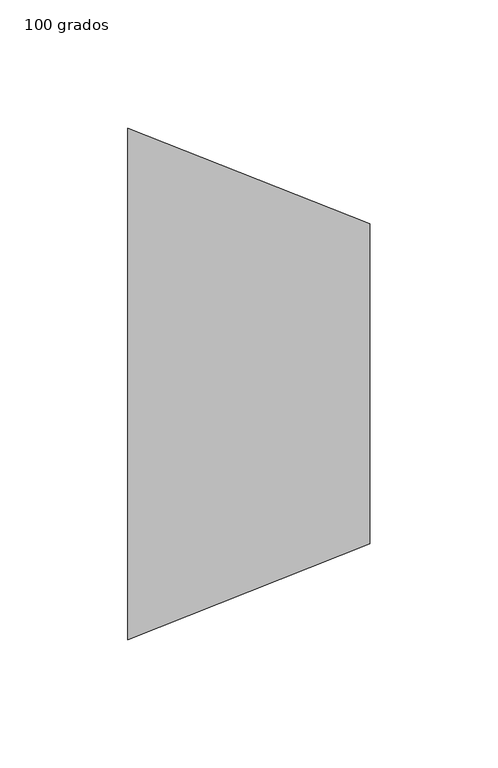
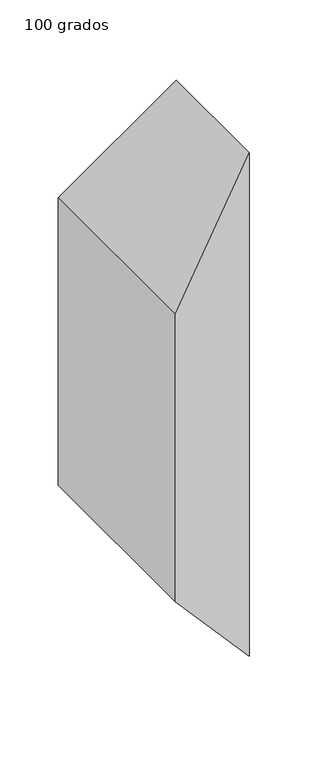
"""IFC4 building model written with IfcOpenShell, lengths in millimetres: duct fitting geometry, M_Transición rectangular - Ángulo : 100 grados."""

from ifc_helpers import new_model, si_unit, origin, place, context, project, spatial, faceted_brep, source, transform, mapped, element, save


def duct_fitting_100_grados_5d525f91(model_context):
    return source(origin(), model_context, "Body", "Brep", [
        faceted_brep([(94.3987085, -62.5, 262.5), (94.3987085, -62.5, -262.5), (94.3987085, 62.5, -262.5), (94.3987085, 62.5, 262.5), (0.0, -100.0, 150.0), (0.0, 100.0, 150.0), (0.0, 100.0, -150.0), (0.0, -100.0, -150.0)], [[[0, 1, 2, 3]], [[4, 5, 6, 7]], [[4, 7, 1, 0]], [[7, 6, 2, 1]], [[6, 5, 3, 2]], [[5, 4, 0, 3]]]),
    ])


if __name__ == "__main__":
    model = new_model("IFC4")
    model_context = context("Model", 3, world=origin())
    ifc_project = project(units=[si_unit("LENGTHUNIT", "METRE", prefix="MILLI")], contexts=[model_context])
    site = spatial("IfcSite", under=ifc_project)
    building = spatial("IfcBuilding", under=site)
    placement = place(None, origin())
    duct_fitting_100_grados_shape = duct_fitting_100_grados_5d525f91(model_context)
    element("IfcDuctFitting", 1, ObjectType="M_Transición rectangular - Ángulo : 100 grados", at=placement, inside=building, context=model_context, shape_type="MappedRepresentation", body=[
        mapped(duct_fitting_100_grados_shape, transform((0.0, 0.0, 0.0), x_axis=(1.0, 0.0, 0.0), y_axis=(0.0, 1.0, 0.0), z_axis=(0.0, 0.0, 1.0))),
    ])
    save(model, "model.ifc")
